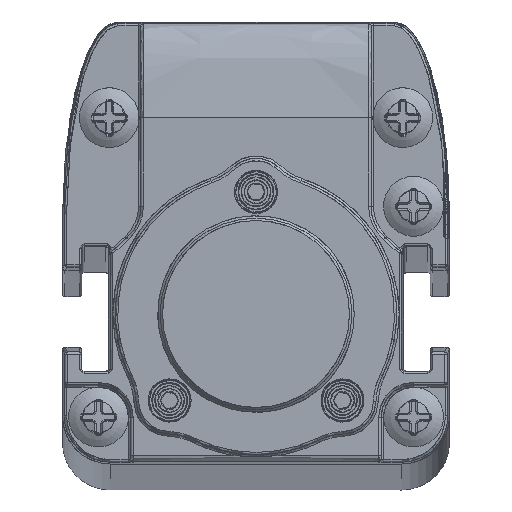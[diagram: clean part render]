
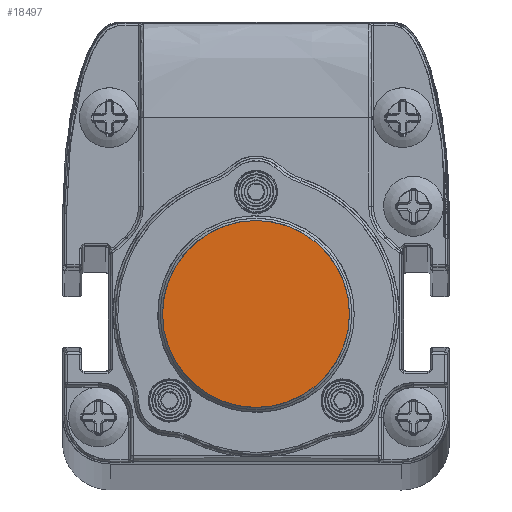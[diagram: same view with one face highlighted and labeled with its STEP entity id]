
A CAD part, top view. The second image highlights one B-rep face of the part: STEP entity #18497.
In plain terms, the highlighted planar face has unit normal (0, 0, 1).
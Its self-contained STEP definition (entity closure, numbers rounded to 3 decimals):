
#15693=B_SPLINE_CURVE_WITH_KNOTS('',3,(#62972,#62973,#62974,#62975,#62976,
#62977,#62978,#62979,#62980,#62981,#62982,#62983,#62984,#62985,#62986,#62987,
#62988,#62989,#62990,#62991,#62992,#62993,#62994,#62995,#62996,#62997,#62998,
#62999,#63000,#63001,#63002,#63003,#63004,#63005,#63006,#63007,#63008,#63009,
#63010,#63011,#63012,#63013,#63014,#63015,#63016,#63017,#63018,#63019,#63020,
#63021,#63022,#63023,#63024,#63025,#63026,#63027,#63028,#63029,#63030,#63031,
#63032,#63033,#63034,#63035,#63036,#63037,#63038,#63039,#63040,#63041,#63042,
#63043,#63044,#63045,#63046,#63047,#63048,#63049,#63050,#63051,#63052,#63053,
#63054,#63055,#63056,#63057,#63058,#63059,#63060,#63061,#63062,#63063,#63064,
#63065,#63066,#63067,#63068,#63069,#63070,#63071,#63072,#63073,#63074),
 .UNSPECIFIED.,.T.,.F.,(1,3,3,3,3,3,3,3,3,3,3,3,3,3,3,3,3,3,3,3,3,3,3,3,
3,3,3,3,3,3,3,3,3,3,3,3,1),(-0.029,0.,0.029,0.059,
0.088,0.118,0.147,0.176,
0.206,0.235,0.265,0.294,
0.324,0.353,0.382,0.412,
0.441,0.471,0.5,0.529,0.559,
0.588,0.618,0.647,0.676,
0.706,0.735,0.765,0.794,
0.824,0.853,0.882,0.912,
0.941,0.971,1.,1.029),.UNSPECIFIED.);
#18497=ADVANCED_FACE('',(#20535),#19473,.T.);
#19473=PLANE('',#44199);
#20535=FACE_OUTER_BOUND('',#21950,.T.);
#21950=EDGE_LOOP('',(#28254));
#28254=ORIENTED_EDGE('',*,*,#37428,.T.);
#32421=VERTEX_POINT('',#63075);
#37428=EDGE_CURVE('',#32421,#32421,#15693,.T.);
#44199=AXIS2_PLACEMENT_3D('',#63076,#48118,#48119);
#48118=DIRECTION('',(0.,0.,1.));
#48119=DIRECTION('',(1.,0.,0.));
#62972=CARTESIAN_POINT('',(7.8,0.,1283.34));
#62973=CARTESIAN_POINT('',(7.8,0.465,1283.34));
#62974=CARTESIAN_POINT('',(7.759,0.925,1283.34));
#62975=CARTESIAN_POINT('',(7.679,1.376,1283.34));
#62976=CARTESIAN_POINT('',(7.638,1.601,1283.34));
#62977=CARTESIAN_POINT('',(7.588,1.825,1283.34));
#62978=CARTESIAN_POINT('',(7.527,2.047,1283.34));
#62979=CARTESIAN_POINT('',(7.466,2.269,1283.34));
#62980=CARTESIAN_POINT('',(7.407,2.458,1283.34));
#62981=CARTESIAN_POINT('',(7.315,2.708,1283.34));
#62982=CARTESIAN_POINT('',(7.129,3.209,1283.34));
#62983=CARTESIAN_POINT('',(6.898,3.683,1283.34));
#62984=CARTESIAN_POINT('',(6.62,4.128,1283.34));
#62985=CARTESIAN_POINT('',(6.343,4.573,1283.34));
#62986=CARTESIAN_POINT('',(6.043,4.965,1283.34));
#62987=CARTESIAN_POINT('',(5.651,5.376,1283.34));
#62988=CARTESIAN_POINT('',(4.868,6.2,1283.34));
#62989=CARTESIAN_POINT('',(3.912,6.837,1283.34));
#62990=CARTESIAN_POINT('',(2.89,7.245,1283.34));
#62991=CARTESIAN_POINT('',(2.378,7.449,1283.34));
#62992=CARTESIAN_POINT('',(1.856,7.597,1283.34));
#62993=CARTESIAN_POINT('',(1.324,7.689,1283.34));
#62994=CARTESIAN_POINT('',(1.058,7.734,1283.34));
#62995=CARTESIAN_POINT('',(0.79,7.766,1283.34));
#62996=CARTESIAN_POINT('',(0.52,7.784,1283.34));
#62997=CARTESIAN_POINT('',(0.249,7.801,1283.34));
#62998=CARTESIAN_POINT('',(-0.055,7.804,1283.34));
#62999=CARTESIAN_POINT('',(-0.3,7.794,1283.34));
#63000=CARTESIAN_POINT('',(-0.79,7.775,1283.34));
#63001=CARTESIAN_POINT('',(-1.271,7.712,1283.34));
#63002=CARTESIAN_POINT('',(-1.742,7.604,1283.34));
#63003=CARTESIAN_POINT('',(-2.213,7.496,1283.34));
#63004=CARTESIAN_POINT('',(-2.713,7.327,1283.34));
#63005=CARTESIAN_POINT('',(-3.123,7.147,1283.34));
#63006=CARTESIAN_POINT('',(-3.534,6.968,1283.34));
#63007=CARTESIAN_POINT('',(-3.924,6.757,1283.34));
#63008=CARTESIAN_POINT('',(-4.293,6.514,1283.34));
#63009=CARTESIAN_POINT('',(-4.477,6.392,1283.34));
#63010=CARTESIAN_POINT('',(-4.656,6.262,1283.34));
#63011=CARTESIAN_POINT('',(-4.83,6.125,1283.34));
#63012=CARTESIAN_POINT('',(-5.004,5.987,1283.34));
#63013=CARTESIAN_POINT('',(-5.15,5.864,1283.34));
#63014=CARTESIAN_POINT('',(-5.337,5.688,1283.34));
#63015=CARTESIAN_POINT('',(-5.712,5.337,1283.34));
#63016=CARTESIAN_POINT('',(-6.047,4.956,1283.34));
#63017=CARTESIAN_POINT('',(-6.341,4.545,1283.34));
#63018=CARTESIAN_POINT('',(-6.635,4.134,1283.34));
#63019=CARTESIAN_POINT('',(-6.869,3.738,1283.34));
#63020=CARTESIAN_POINT('',(-7.102,3.226,1283.34));
#63021=CARTESIAN_POINT('',(-7.567,2.203,1283.34));
#63022=CARTESIAN_POINT('',(-7.8,1.124,1283.34));
#63023=CARTESIAN_POINT('',(-7.8,0.,1283.34));
#63024=CARTESIAN_POINT('',(-7.8,-0.562,1283.34));
#63025=CARTESIAN_POINT('',(-7.742,-1.113,1283.34));
#63026=CARTESIAN_POINT('',(-7.625,-1.651,1283.34));
#63027=CARTESIAN_POINT('',(-7.509,-2.189,1283.34));
#63028=CARTESIAN_POINT('',(-7.314,-2.758,1283.34));
#63029=CARTESIAN_POINT('',(-7.102,-3.226,1283.34));
#63030=CARTESIAN_POINT('',(-6.889,-3.694,1283.34));
#63031=CARTESIAN_POINT('',(-6.636,-4.134,1283.34));
#63032=CARTESIAN_POINT('',(-6.341,-4.544,1283.34));
#63033=CARTESIAN_POINT('',(-6.194,-4.75,1283.34));
#63034=CARTESIAN_POINT('',(-6.037,-4.947,1283.34));
#63035=CARTESIAN_POINT('',(-5.87,-5.138,1283.34));
#63036=CARTESIAN_POINT('',(-5.702,-5.329,1283.34));
#63037=CARTESIAN_POINT('',(-5.5,-5.535,1283.34));
#63038=CARTESIAN_POINT('',(-5.337,-5.688,1283.34));
#63039=CARTESIAN_POINT('',(-5.01,-5.995,1283.34));
#63040=CARTESIAN_POINT('',(-4.662,-6.27,1283.34));
#63041=CARTESIAN_POINT('',(-4.293,-6.513,1283.34));
#63042=CARTESIAN_POINT('',(-3.924,-6.756,1283.34));
#63043=CARTESIAN_POINT('',(-3.573,-6.951,1283.34));
#63044=CARTESIAN_POINT('',(-3.123,-7.147,1283.34));
#63045=CARTESIAN_POINT('',(-2.674,-7.344,1283.34));
#63046=CARTESIAN_POINT('',(-2.213,-7.496,1283.34));
#63047=CARTESIAN_POINT('',(-1.743,-7.604,1283.34));
#63048=CARTESIAN_POINT('',(-1.507,-7.658,1283.34));
#63049=CARTESIAN_POINT('',(-1.27,-7.701,1283.34));
#63050=CARTESIAN_POINT('',(-1.029,-7.732,1283.34));
#63051=CARTESIAN_POINT('',(-0.789,-7.764,1283.34));
#63052=CARTESIAN_POINT('',(-0.575,-7.784,1283.34));
#63053=CARTESIAN_POINT('',(-0.3,-7.794,1283.34));
#63054=CARTESIAN_POINT('',(0.801,-7.837,1283.34));
#63055=CARTESIAN_POINT('',(1.834,-7.666,1283.34));
#63056=CARTESIAN_POINT('',(2.89,-7.245,1283.34));
#63057=CARTESIAN_POINT('',(3.417,-7.035,1283.34));
#63058=CARTESIAN_POINT('',(3.912,-6.774,1283.34));
#63059=CARTESIAN_POINT('',(4.372,-6.462,1283.34));
#63060=CARTESIAN_POINT('',(4.833,-6.15,1283.34));
#63061=CARTESIAN_POINT('',(5.283,-5.763,1283.34));
#63062=CARTESIAN_POINT('',(5.651,-5.376,1283.34));
#63063=CARTESIAN_POINT('',(6.019,-4.989,1283.34));
#63064=CARTESIAN_POINT('',(6.342,-4.573,1283.34));
#63065=CARTESIAN_POINT('',(6.62,-4.128,1283.34));
#63066=CARTESIAN_POINT('',(6.759,-3.906,1283.34));
#63067=CARTESIAN_POINT('',(6.886,-3.676,1283.34));
#63068=CARTESIAN_POINT('',(7.002,-3.44,1283.34));
#63069=CARTESIAN_POINT('',(7.117,-3.203,1283.34));
#63070=CARTESIAN_POINT('',(7.234,-2.926,1283.34));
#63071=CARTESIAN_POINT('',(7.315,-2.708,1283.34));
#63072=CARTESIAN_POINT('',(7.638,-1.835,1283.34));
#63073=CARTESIAN_POINT('',(7.8,-0.933,1283.34));
#63074=CARTESIAN_POINT('',(7.8,0.,1283.34));
#63075=CARTESIAN_POINT('',(7.8,0.,1283.34));
#63076=CARTESIAN_POINT('',(-8.9,-8.81,1283.34));
